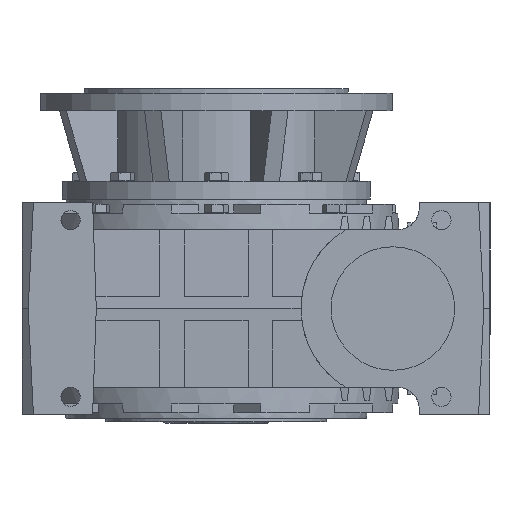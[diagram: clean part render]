
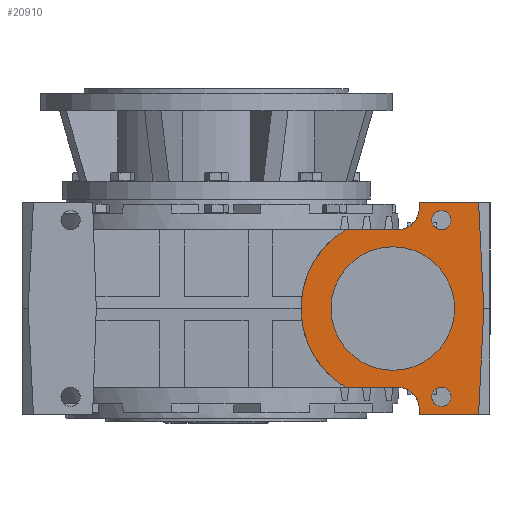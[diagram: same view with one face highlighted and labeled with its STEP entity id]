
A CAD part, left-side view. The second image highlights one B-rep face of the part: STEP entity #20910.
In plain terms, the highlighted planar face has unit normal (-1, 0, 0).
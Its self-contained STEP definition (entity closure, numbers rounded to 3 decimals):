
#77 = EDGE_CURVE ( 'NONE', #4702, #6074, #37128, .T. ) ;
#218 = EDGE_CURVE ( 'NONE', #12336, #36954, #36250, .T. ) ;
#394 = VECTOR ( 'NONE', #18949, 1000. ) ;
#586 = LINE ( 'NONE', #22665, #394 ) ;
#872 = CARTESIAN_POINT ( 'NONE',  ( -220., -229.83, 113.128 ) ) ;
#1406 = DIRECTION ( 'NONE',  ( 0., -0.049, 0.999 ) ) ;
#1473 = EDGE_CURVE ( 'NONE', #7760, #7760, #27441, .T. ) ;
#1684 = AXIS2_PLACEMENT_3D ( 'NONE', #16602, #43261, #20475 ) ;
#2197 = DIRECTION ( 'NONE',  ( 0., -1., 0. ) ) ;
#2998 = VERTEX_POINT ( 'NONE', #30908 ) ;
#3158 = ORIENTED_EDGE ( 'NONE', *, *, #31509, .T. ) ;
#3265 = VERTEX_POINT ( 'NONE', #27466 ) ;
#3426 = CARTESIAN_POINT ( 'NONE',  ( -220., -303., 0. ) ) ;
#3758 = ORIENTED_EDGE ( 'NONE', *, *, #40938, .T. ) ;
#4185 = LINE ( 'NONE', #6430, #9003 ) ;
#4387 = VERTEX_POINT ( 'NONE', #18980 ) ;
#4444 = VERTEX_POINT ( 'NONE', #11691 ) ;
#4702 = VERTEX_POINT ( 'NONE', #18978 ) ;
#4977 = CIRCLE ( 'NONE', #8081, 25. ) ;
#5356 = DIRECTION ( 'NONE',  ( -1., 0., 0. ) ) ;
#5521 = CARTESIAN_POINT ( 'NONE',  ( -220., -229.83, -113.128 ) ) ;
#5596 = DIRECTION ( 'NONE',  ( 0., -1., 0. ) ) ;
#6074 = VERTEX_POINT ( 'NONE', #14835 ) ;
#6185 = CARTESIAN_POINT ( 'NONE',  ( -220., -229.83, -113.128 ) ) ;
#6430 = CARTESIAN_POINT ( 'NONE',  ( -220., 220., 120. ) ) ;
#6861 = VERTEX_POINT ( 'NONE', #6185 ) ;
#7196 = CARTESIAN_POINT ( 'NONE',  ( -220., -96.253, 7.255 ) ) ;
#7222 = FACE_OUTER_BOUND ( 'NONE', #15542, .T. ) ;
#7441 = FACE_BOUND ( 'NONE', #17826, .T. ) ;
#7475 = CARTESIAN_POINT ( 'NONE',  ( -220., -230.07, 120. ) ) ;
#7534 = FACE_BOUND ( 'NONE', #42270, .T. ) ;
#7630 = EDGE_CURVE ( 'NONE', #48805, #46849, #43200, .T. ) ;
#7760 = VERTEX_POINT ( 'NONE', #40850 ) ;
#8081 = AXIS2_PLACEMENT_3D ( 'NONE', #9923, #36770, #13808 ) ;
#8420 = ORIENTED_EDGE ( 'NONE', *, *, #77, .T. ) ;
#8892 = AXIS2_PLACEMENT_3D ( 'NONE', #37771, #14806, #41539 ) ;
#9003 = VECTOR ( 'NONE', #29512, 1000. ) ;
#9138 = CARTESIAN_POINT ( 'NONE',  ( -220., 220., 120. ) ) ;
#9191 = AXIS2_PLACEMENT_3D ( 'NONE', #32669, #9636, #36471 ) ;
#9636 = DIRECTION ( 'NONE',  ( 1., 0., 0. ) ) ;
#9750 = VERTEX_POINT ( 'NONE', #35783 ) ;
#9757 = EDGE_CURVE ( 'NONE', #11325, #12336, #36400, .T. ) ;
#9923 = CARTESIAN_POINT ( 'NONE',  ( -220., -204.845, 114. ) ) ;
#9949 = ORIENTED_EDGE ( 'NONE', *, *, #22079, .T. ) ;
#10016 = FACE_BOUND ( 'NONE', #34696, .T. ) ;
#10142 = VERTEX_POINT ( 'NONE', #31099 ) ;
#10930 = VERTEX_POINT ( 'NONE', #16902 ) ;
#11055 = DIRECTION ( 'NONE',  ( 0., 0.035, -0.999 ) ) ;
#11193 = CIRCLE ( 'NONE', #16798, 104. ) ;
#11325 = VERTEX_POINT ( 'NONE', #16214 ) ;
#11691 = CARTESIAN_POINT ( 'NONE',  ( -220., -96.253, -7.255 ) ) ;
#12211 = EDGE_CURVE ( 'NONE', #4444, #4702, #11193, .T. ) ;
#12316 = DIRECTION ( 'NONE',  ( -1., 0., 0. ) ) ;
#12336 = VERTEX_POINT ( 'NONE', #3426 ) ;
#13808 = DIRECTION ( 'NONE',  ( 0., 0., 1. ) ) ;
#14806 = DIRECTION ( 'NONE',  ( 1., 0., 0. ) ) ;
#14835 = CARTESIAN_POINT ( 'NONE',  ( -220., -204.845, -89. ) ) ;
#15542 = EDGE_LOOP ( 'NONE', ( #9949, #40152, #38978, #35554, #21172, #27954, #19159, #20746, #8420, #3758, #3158, #39370, #17257, #34886 ) ) ;
#16214 = CARTESIAN_POINT ( 'NONE',  ( -220., -297.074, -120. ) ) ;
#16460 = ORIENTED_EDGE ( 'NONE', *, *, #1473, .F. ) ;
#16602 = CARTESIAN_POINT ( 'NONE',  ( -220., -200., 0. ) ) ;
#16798 = AXIS2_PLACEMENT_3D ( 'NONE', #21927, #48429, #25815 ) ;
#16902 = CARTESIAN_POINT ( 'NONE',  ( -220., -204.845, 89. ) ) ;
#16932 = EDGE_CURVE ( 'NONE', #4387, #4387, #23444, .T. ) ;
#17257 = ORIENTED_EDGE ( 'NONE', *, *, #9757, .T. ) ;
#17826 = EDGE_LOOP ( 'NONE', ( #29450 ) ) ;
#18949 = DIRECTION ( 'NONE',  ( 0., -0.035, -0.999 ) ) ;
#18978 = CARTESIAN_POINT ( 'NONE',  ( -220., -146.195, -89. ) ) ;
#18980 = CARTESIAN_POINT ( 'NONE',  ( -220., -200., 70. ) ) ;
#19003 = CARTESIAN_POINT ( 'NONE',  ( -220., -303., 0. ) ) ;
#19159 = ORIENTED_EDGE ( 'NONE', *, *, #21806, .T. ) ;
#20475 = DIRECTION ( 'NONE',  ( 0., 0., 1. ) ) ;
#20563 = CARTESIAN_POINT ( 'NONE',  ( -220., -297.074, -120. ) ) ;
#20746 = ORIENTED_EDGE ( 'NONE', *, *, #12211, .T. ) ;
#20910 = ADVANCED_FACE ( 'NONE', ( #7534, #10016, #7222, #7441 ), #28520, .T. ) ;
#21172 = ORIENTED_EDGE ( 'NONE', *, *, #45798, .T. ) ;
#21806 = EDGE_CURVE ( 'NONE', #3265, #4444, #586, .T. ) ;
#21927 = CARTESIAN_POINT ( 'NONE',  ( -220., -200., 0. ) ) ;
#21954 = EDGE_CURVE ( 'NONE', #9750, #11325, #37206, .T. ) ;
#22044 = ORIENTED_EDGE ( 'NONE', *, *, #24272, .F. ) ;
#22079 = EDGE_CURVE ( 'NONE', #36954, #48805, #4185, .T. ) ;
#22183 = AXIS2_PLACEMENT_3D ( 'NONE', #28429, #5356, #32266 ) ;
#22665 = CARTESIAN_POINT ( 'NONE',  ( -220., -96., 0. ) ) ;
#23299 = CARTESIAN_POINT ( 'NONE',  ( -220., -96.253, 7.255 ) ) ;
#23444 = CIRCLE ( 'NONE', #8892, 70. ) ;
#23739 = VECTOR ( 'NONE', #11055, 1000. ) ;
#23890 = LINE ( 'NONE', #7196, #23739 ) ;
#24131 = VECTOR ( 'NONE', #5596, 1000. ) ;
#24272 = EDGE_CURVE ( 'NONE', #2998, #2998, #36977, .T. ) ;
#24828 = DIRECTION ( 'NONE',  ( 0., 0., 1. ) ) ;
#25410 = CIRCLE ( 'NONE', #9191, 25. ) ;
#25815 = DIRECTION ( 'NONE',  ( 0., 0., 1. ) ) ;
#26973 = CARTESIAN_POINT ( 'NONE',  ( -220., -297.074, 120. ) ) ;
#27441 = CIRCLE ( 'NONE', #22183, 11. ) ;
#27466 = CARTESIAN_POINT ( 'NONE',  ( -220., -96., 0. ) ) ;
#27954 = ORIENTED_EDGE ( 'NONE', *, *, #33918, .T. ) ;
#28429 = CARTESIAN_POINT ( 'NONE',  ( -220., -255., 100. ) ) ;
#28520 = PLANE ( 'NONE',  #32915 ) ;
#29060 = EDGE_CURVE ( 'NONE', #46849, #10930, #4977, .T. ) ;
#29437 = CARTESIAN_POINT ( 'NONE',  ( -220., 220., -89. ) ) ;
#29450 = ORIENTED_EDGE ( 'NONE', *, *, #16932, .T. ) ;
#29512 = DIRECTION ( 'NONE',  ( 0., 1., 0. ) ) ;
#30601 = DIRECTION ( 'NONE',  ( 0., 0.049, 0.999 ) ) ;
#30908 = CARTESIAN_POINT ( 'NONE',  ( -220., -255., -89. ) ) ;
#31048 = DIRECTION ( 'NONE',  ( 0., 0.035, -0.999 ) ) ;
#31099 = CARTESIAN_POINT ( 'NONE',  ( -220., -146.195, 89. ) ) ;
#31509 = EDGE_CURVE ( 'NONE', #6861, #9750, #39161, .T. ) ;
#31885 = CIRCLE ( 'NONE', #1684, 104. ) ;
#32266 = DIRECTION ( 'NONE',  ( 0., 0., 1. ) ) ;
#32459 = DIRECTION ( 'NONE',  ( 0., -0.035, -0.999 ) ) ;
#32669 = CARTESIAN_POINT ( 'NONE',  ( -220., -204.845, -114. ) ) ;
#32915 = AXIS2_PLACEMENT_3D ( 'NONE', #9138, #47490, #24828 ) ;
#33918 = EDGE_CURVE ( 'NONE', #34489, #3265, #23890, .T. ) ;
#34489 = VERTEX_POINT ( 'NONE', #23299 ) ;
#34696 = EDGE_LOOP ( 'NONE', ( #16460 ) ) ;
#34886 = ORIENTED_EDGE ( 'NONE', *, *, #218, .T. ) ;
#35298 = CARTESIAN_POINT ( 'NONE',  ( -220., -255., -100. ) ) ;
#35554 = ORIENTED_EDGE ( 'NONE', *, *, #39037, .F. ) ;
#35614 = VECTOR ( 'NONE', #1406, 1000. ) ;
#35783 = CARTESIAN_POINT ( 'NONE',  ( -220., -230.07, -120. ) ) ;
#35989 = VECTOR ( 'NONE', #30601, 1000. ) ;
#36250 = LINE ( 'NONE', #19003, #35989 ) ;
#36326 = CARTESIAN_POINT ( 'NONE',  ( -220., 220., -120. ) ) ;
#36400 = LINE ( 'NONE', #20563, #35614 ) ;
#36471 = DIRECTION ( 'NONE',  ( 0., 0., 1. ) ) ;
#36770 = DIRECTION ( 'NONE',  ( 1., 0., 0. ) ) ;
#36954 = VERTEX_POINT ( 'NONE', #26973 ) ;
#36977 = CIRCLE ( 'NONE', #37468, 11. ) ;
#37128 = LINE ( 'NONE', #29437, #37178 ) ;
#37178 = VECTOR ( 'NONE', #40701, 1000. ) ;
#37206 = LINE ( 'NONE', #36326, #24131 ) ;
#37468 = AXIS2_PLACEMENT_3D ( 'NONE', #35298, #12316, #39095 ) ;
#37771 = CARTESIAN_POINT ( 'NONE',  ( -220., -200., 0. ) ) ;
#38652 = CARTESIAN_POINT ( 'NONE',  ( -220., -230.07, 120. ) ) ;
#38729 = VECTOR ( 'NONE', #2197, 1000. ) ;
#38978 = ORIENTED_EDGE ( 'NONE', *, *, #29060, .T. ) ;
#39004 = LINE ( 'NONE', #47913, #38729 ) ;
#39037 = EDGE_CURVE ( 'NONE', #10142, #10930, #39004, .T. ) ;
#39095 = DIRECTION ( 'NONE',  ( 0., 0., 1. ) ) ;
#39161 = LINE ( 'NONE', #5521, #39774 ) ;
#39370 = ORIENTED_EDGE ( 'NONE', *, *, #21954, .T. ) ;
#39774 = VECTOR ( 'NONE', #32459, 1000. ) ;
#40152 = ORIENTED_EDGE ( 'NONE', *, *, #7630, .T. ) ;
#40701 = DIRECTION ( 'NONE',  ( 0., -1., 0. ) ) ;
#40850 = CARTESIAN_POINT ( 'NONE',  ( -220., -255., 111. ) ) ;
#40938 = EDGE_CURVE ( 'NONE', #6074, #6861, #25410, .T. ) ;
#41539 = DIRECTION ( 'NONE',  ( 0., 0., 1. ) ) ;
#42270 = EDGE_LOOP ( 'NONE', ( #22044 ) ) ;
#42392 = VECTOR ( 'NONE', #31048, 1000. ) ;
#43200 = LINE ( 'NONE', #38652, #42392 ) ;
#43261 = DIRECTION ( 'NONE',  ( -1., 0., 0. ) ) ;
#45798 = EDGE_CURVE ( 'NONE', #10142, #34489, #31885, .T. ) ;
#46849 = VERTEX_POINT ( 'NONE', #872 ) ;
#47490 = DIRECTION ( 'NONE',  ( -1., 0., 0. ) ) ;
#47913 = CARTESIAN_POINT ( 'NONE',  ( -220., 0., 89. ) ) ;
#48429 = DIRECTION ( 'NONE',  ( -1., 0., 0. ) ) ;
#48805 = VERTEX_POINT ( 'NONE', #7475 ) ;
